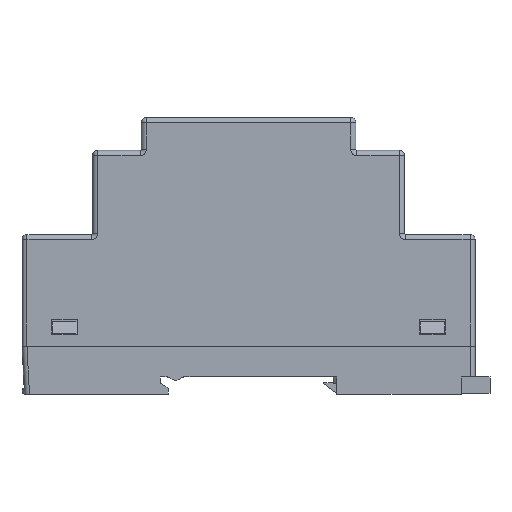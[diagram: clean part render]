
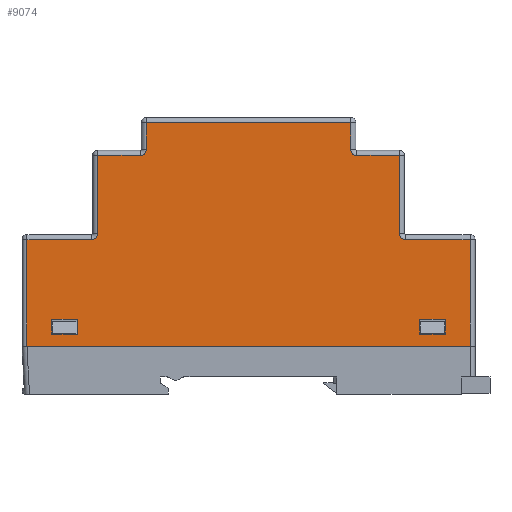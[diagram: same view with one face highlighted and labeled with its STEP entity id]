
A CAD part, left-side view. The second image highlights one B-rep face of the part: STEP entity #9074.
In plain terms, the highlighted planar face has unit normal (-1, 0, 0).
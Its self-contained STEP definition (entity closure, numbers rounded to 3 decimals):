
#5645=CARTESIAN_POINT('',(-9.,-21.75,39.5));
#5646=DIRECTION('',(-1.,0.,0.));
#5647=DIRECTION('',(0.,1.,0.));
#5648=AXIS2_PLACEMENT_3D('',#5645,#5646,#5647);
#5653=CARTESIAN_POINT('',(-9.,-31.5,22.6));
#5654=DIRECTION('',(-1.,0.,0.));
#5655=DIRECTION('',(0.,1.,0.));
#5656=AXIS2_PLACEMENT_3D('',#5653,#5654,#5655);
#5661=DIRECTION('',(0.,1.,0.));
#5662=VECTOR('',#5661,89.);
#5663=CARTESIAN_POINT('',(-9.,-44.5,0.));
#5664=LINE('',#5663,#5662);
#5668=CARTESIAN_POINT('',(-9.,31.5,22.6));
#5669=DIRECTION('',(-1.,0.,0.));
#5670=DIRECTION('',(0.,0.,-1.));
#5671=AXIS2_PLACEMENT_3D('',#5668,#5669,#5670);
#5676=CARTESIAN_POINT('',(-9.,21.75,39.5));
#5677=DIRECTION('',(-1.,0.,0.));
#5678=DIRECTION('',(0.,0.,-1.));
#5679=AXIS2_PLACEMENT_3D('',#5676,#5677,#5678);
#5684=DIRECTION('',(0.,0.,-1.));
#5685=VECTOR('',#5684,3.);
#5686=CARTESIAN_POINT('',(-9.,39.55,5.4));
#5687=LINE('',#5686,#5685);
#5691=DIRECTION('',(0.,-1.,0.));
#5692=VECTOR('',#5691,5.2);
#5693=CARTESIAN_POINT('',(-9.,39.55,2.4));
#5694=LINE('',#5693,#5692);
#5698=DIRECTION('',(0.,0.,1.));
#5699=VECTOR('',#5698,3.);
#5700=CARTESIAN_POINT('',(-9.,34.35,2.4));
#5701=LINE('',#5700,#5699);
#5705=DIRECTION('',(0.,1.,0.));
#5706=VECTOR('',#5705,5.2);
#5707=CARTESIAN_POINT('',(-9.,34.35,5.4));
#5708=LINE('',#5707,#5706);
#5712=DIRECTION('',(0.,0.,-1.));
#5713=VECTOR('',#5712,3.);
#5714=CARTESIAN_POINT('',(-9.,-34.35,5.4));
#5715=LINE('',#5714,#5713);
#5719=DIRECTION('',(0.,-1.,0.));
#5720=VECTOR('',#5719,5.2);
#5721=CARTESIAN_POINT('',(-9.,-34.35,2.4));
#5722=LINE('',#5721,#5720);
#5726=DIRECTION('',(0.,0.,1.));
#5727=VECTOR('',#5726,3.);
#5728=CARTESIAN_POINT('',(-9.,-39.55,2.4));
#5729=LINE('',#5728,#5727);
#5733=DIRECTION('',(0.,1.,0.));
#5734=VECTOR('',#5733,5.2);
#5735=CARTESIAN_POINT('',(-9.,-39.55,5.4));
#5736=LINE('',#5735,#5734);
#5740=DIRECTION('',(0.,0.,1.));
#5741=VECTOR('',#5740,5.4);
#5742=CARTESIAN_POINT('',(-9.,-20.55,39.5));
#5743=LINE('',#5742,#5741);
#5785=DIRECTION('',(0.,1.,0.));
#5786=VECTOR('',#5785,8.55);
#5787=CARTESIAN_POINT('',(-9.,-30.3,38.3));
#5788=LINE('',#5787,#5786);
#5852=DIRECTION('',(0.,1.,0.));
#5853=VECTOR('',#5852,41.1);
#5854=CARTESIAN_POINT('',(-9.,-20.55,44.9));
#5855=LINE('',#5854,#5853);
#5905=DIRECTION('',(0.,0.,-1.));
#5906=VECTOR('',#5905,5.4);
#5907=CARTESIAN_POINT('',(-9.,20.55,44.9));
#5908=LINE('',#5907,#5906);
#5936=DIRECTION('',(0.,1.,0.));
#5937=VECTOR('',#5936,8.55);
#5938=CARTESIAN_POINT('',(-9.,21.75,38.3));
#5939=LINE('',#5938,#5937);
#5989=DIRECTION('',(0.,0.,-1.));
#5990=VECTOR('',#5989,15.7);
#5991=CARTESIAN_POINT('',(-9.,30.3,38.3));
#5992=LINE('',#5991,#5990);
#6020=DIRECTION('',(0.,1.,0.));
#6021=VECTOR('',#6020,13.);
#6022=CARTESIAN_POINT('',(-9.,31.5,21.4));
#6023=LINE('',#6022,#6021);
#6196=DIRECTION('',(0.,0.,-1.));
#6197=VECTOR('',#6196,21.4);
#6198=CARTESIAN_POINT('',(-9.,44.5,21.4));
#6199=LINE('',#6198,#6197);
#6270=DIRECTION('',(0.,0.,1.));
#6271=VECTOR('',#6270,21.4);
#6272=CARTESIAN_POINT('',(-9.,-44.5,0.));
#6273=LINE('',#6272,#6271);
#6424=DIRECTION('',(0.,1.,0.));
#6425=VECTOR('',#6424,13.);
#6426=CARTESIAN_POINT('',(-9.,-44.5,21.4));
#6427=LINE('',#6426,#6425);
#6455=DIRECTION('',(0.,0.,1.));
#6456=VECTOR('',#6455,15.7);
#6457=CARTESIAN_POINT('',(-9.,-30.3,22.6));
#6458=LINE('',#6457,#6456);
#8517=CARTESIAN_POINT('',(-9.,-20.55,39.5));
#8518=CARTESIAN_POINT('',(-9.,-20.55,44.9));
#8519=VERTEX_POINT('',#8517);
#8520=VERTEX_POINT('',#8518);
#8521=CARTESIAN_POINT('',(-9.,-21.75,38.3));
#8522=VERTEX_POINT('',#8521);
#8523=CARTESIAN_POINT('',(-9.,-30.3,38.3));
#8524=VERTEX_POINT('',#8523);
#8525=CARTESIAN_POINT('',(-9.,-30.3,22.6));
#8526=VERTEX_POINT('',#8525);
#8527=CARTESIAN_POINT('',(-9.,-31.5,21.4));
#8528=VERTEX_POINT('',#8527);
#8529=CARTESIAN_POINT('',(-9.,-44.5,21.4));
#8530=VERTEX_POINT('',#8529);
#8531=CARTESIAN_POINT('',(-9.,-44.5,0.));
#8532=VERTEX_POINT('',#8531);
#8533=CARTESIAN_POINT('',(-9.,44.5,0.));
#8534=VERTEX_POINT('',#8533);
#8535=CARTESIAN_POINT('',(-9.,44.5,21.4));
#8536=VERTEX_POINT('',#8535);
#8537=CARTESIAN_POINT('',(-9.,31.5,21.4));
#8538=VERTEX_POINT('',#8537);
#8539=CARTESIAN_POINT('',(-9.,30.3,22.6));
#8540=VERTEX_POINT('',#8539);
#8541=CARTESIAN_POINT('',(-9.,30.3,38.3));
#8542=VERTEX_POINT('',#8541);
#8543=CARTESIAN_POINT('',(-9.,21.75,38.3));
#8544=VERTEX_POINT('',#8543);
#8545=CARTESIAN_POINT('',(-9.,20.55,39.5));
#8546=VERTEX_POINT('',#8545);
#8547=CARTESIAN_POINT('',(-9.,20.55,44.9));
#8548=VERTEX_POINT('',#8547);
#8549=CARTESIAN_POINT('',(-9.,39.55,5.4));
#8550=CARTESIAN_POINT('',(-9.,39.55,2.4));
#8551=VERTEX_POINT('',#8549);
#8552=VERTEX_POINT('',#8550);
#8553=CARTESIAN_POINT('',(-9.,34.35,2.4));
#8554=VERTEX_POINT('',#8553);
#8555=CARTESIAN_POINT('',(-9.,34.35,5.4));
#8556=VERTEX_POINT('',#8555);
#8557=CARTESIAN_POINT('',(-9.,-34.35,5.4));
#8558=CARTESIAN_POINT('',(-9.,-34.35,2.4));
#8559=VERTEX_POINT('',#8557);
#8560=VERTEX_POINT('',#8558);
#8561=CARTESIAN_POINT('',(-9.,-39.55,2.4));
#8562=VERTEX_POINT('',#8561);
#8563=CARTESIAN_POINT('',(-9.,-39.55,5.4));
#8564=VERTEX_POINT('',#8563);
#9015=CARTESIAN_POINT('',(-9.,0.,0.));
#9016=DIRECTION('',(1.,0.,0.));
#9017=DIRECTION('',(0.,0.,-1.));
#9018=AXIS2_PLACEMENT_3D('',#9015,#9016,#9017);
#9019=PLANE('',#9018);
#9021=ORIENTED_EDGE('',*,*,#9020,.F.);
#9023=ORIENTED_EDGE('',*,*,#9022,.T.);
#9025=ORIENTED_EDGE('',*,*,#9024,.F.);
#9027=ORIENTED_EDGE('',*,*,#9026,.F.);
#9029=ORIENTED_EDGE('',*,*,#9028,.T.);
#9031=ORIENTED_EDGE('',*,*,#9030,.F.);
#9033=ORIENTED_EDGE('',*,*,#9032,.F.);
#9035=ORIENTED_EDGE('',*,*,#9034,.T.);
#9037=ORIENTED_EDGE('',*,*,#9036,.F.);
#9039=ORIENTED_EDGE('',*,*,#9038,.F.);
#9041=ORIENTED_EDGE('',*,*,#9040,.T.);
#9043=ORIENTED_EDGE('',*,*,#9042,.F.);
#9045=ORIENTED_EDGE('',*,*,#9044,.F.);
#9047=ORIENTED_EDGE('',*,*,#9046,.T.);
#9049=ORIENTED_EDGE('',*,*,#9048,.F.);
#9051=ORIENTED_EDGE('',*,*,#9050,.F.);
#9052=EDGE_LOOP('',(#9021,#9023,#9025,#9027,#9029,#9031,#9033,#9035,#9037,#9039,
#9041,#9043,#9045,#9047,#9049,#9051));
#9053=FACE_OUTER_BOUND('',#9052,.F.);
#9055=ORIENTED_EDGE('',*,*,#9054,.T.);
#9057=ORIENTED_EDGE('',*,*,#9056,.T.);
#9059=ORIENTED_EDGE('',*,*,#9058,.T.);
#9061=ORIENTED_EDGE('',*,*,#9060,.T.);
#9062=EDGE_LOOP('',(#9055,#9057,#9059,#9061));
#9063=FACE_BOUND('',#9062,.F.);
#9065=ORIENTED_EDGE('',*,*,#9064,.T.);
#9067=ORIENTED_EDGE('',*,*,#9066,.T.);
#9069=ORIENTED_EDGE('',*,*,#9068,.T.);
#9071=ORIENTED_EDGE('',*,*,#9070,.T.);
#9072=EDGE_LOOP('',(#9065,#9067,#9069,#9071));
#9073=FACE_BOUND('',#9072,.F.);
#5649=CIRCLE('',#5648,1.2);
#5657=CIRCLE('',#5656,1.2);
#5672=CIRCLE('',#5671,1.2);
#5680=CIRCLE('',#5679,1.2);
#9020=EDGE_CURVE('',#8519,#8520,#5743,.T.);
#9022=EDGE_CURVE('',#8519,#8522,#5649,.T.);
#9024=EDGE_CURVE('',#8524,#8522,#5788,.T.);
#9026=EDGE_CURVE('',#8526,#8524,#6458,.T.);
#9028=EDGE_CURVE('',#8526,#8528,#5657,.T.);
#9030=EDGE_CURVE('',#8530,#8528,#6427,.T.);
#9032=EDGE_CURVE('',#8532,#8530,#6273,.T.);
#9034=EDGE_CURVE('',#8532,#8534,#5664,.T.);
#9036=EDGE_CURVE('',#8536,#8534,#6199,.T.);
#9038=EDGE_CURVE('',#8538,#8536,#6023,.T.);
#9040=EDGE_CURVE('',#8538,#8540,#5672,.T.);
#9042=EDGE_CURVE('',#8542,#8540,#5992,.T.);
#9044=EDGE_CURVE('',#8544,#8542,#5939,.T.);
#9046=EDGE_CURVE('',#8544,#8546,#5680,.T.);
#9048=EDGE_CURVE('',#8548,#8546,#5908,.T.);
#9050=EDGE_CURVE('',#8520,#8548,#5855,.T.);
#9054=EDGE_CURVE('',#8551,#8552,#5687,.T.);
#9056=EDGE_CURVE('',#8552,#8554,#5694,.T.);
#9058=EDGE_CURVE('',#8554,#8556,#5701,.T.);
#9060=EDGE_CURVE('',#8556,#8551,#5708,.T.);
#9064=EDGE_CURVE('',#8559,#8560,#5715,.T.);
#9066=EDGE_CURVE('',#8560,#8562,#5722,.T.);
#9068=EDGE_CURVE('',#8562,#8564,#5729,.T.);
#9070=EDGE_CURVE('',#8564,#8559,#5736,.T.);
#9074=ADVANCED_FACE('',(#9053,#9063,#9073),#9019,.F.);
